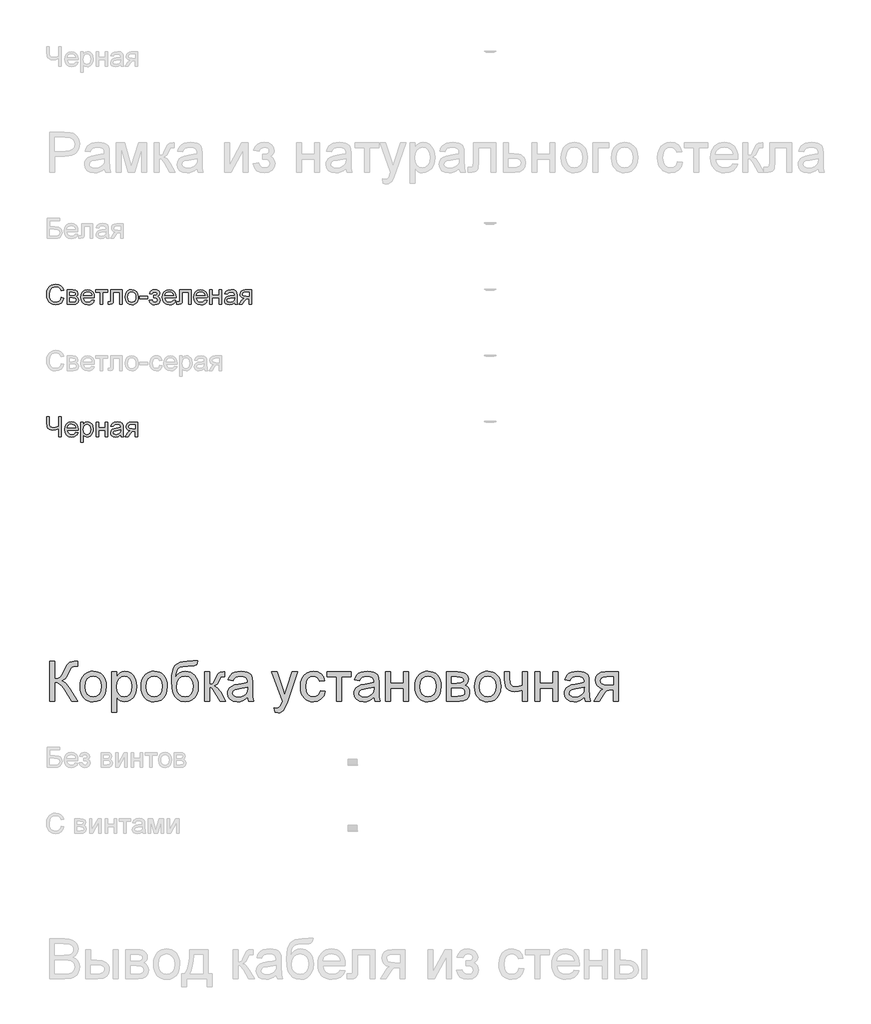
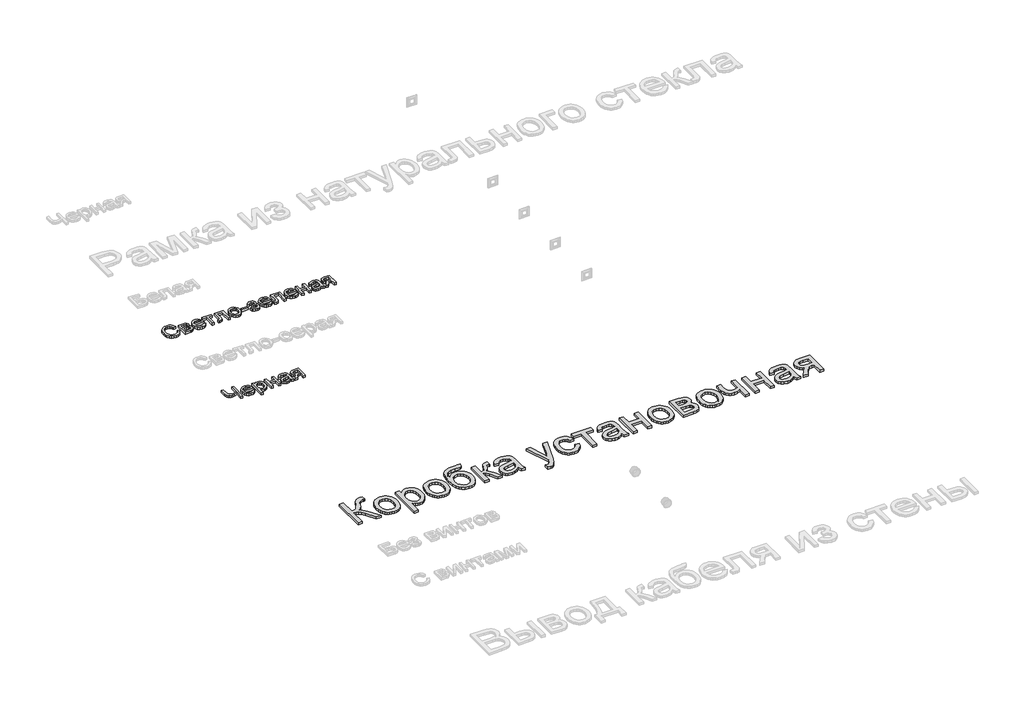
# One storey, part 101 of 168: 3 proxies.
"""IFC4 building model written with IfcOpenShell, lengths in millimetres."""

from ifc_helpers import new_model, si_unit, origin, origin_with_axes, place, context, project, spatial, polyline, outline, extrude, element, save

model = new_model("IFC4")

# Units and contexts
model_context = context("Model", 3, world=origin())
ifc_project = project(units=[si_unit("LENGTHUNIT", "METRE", prefix="MILLI")], contexts=[model_context])

# Site, building, storey
site = spatial("IfcSite", under=ifc_project)
building = spatial("IfcBuilding", under=site)
storey = spatial("IfcBuildingStorey", under=building, Name="Этаж 01", Elevation=0.0)

# Proxies
placement = place(None, origin())
element("IfcBuildingElementProxy", 1, Name="300 мм Arial 2", ObjectType="300 мм Arial 2", at=placement, inside=storey, context=model_context, shape_type="SweptSolid", body=[
    extrude(outline(polyline([(32899.0945017, -20047.0367511), (32936.765618, -20047.0367511), (32936.765618, -20178.8856582), (32962.2690373, -20176.3932577), (32978.8881064, -20168.9160561), (32992.3249963, -20151.3220997), (33008.2818778, -20118.4794346), (33029.0672106, -20076.3569461), (33039.0919949, -20064.9434072), (33052.6116582, -20055.498037), (33068.6605103, -20049.1520726), (33086.2728608, -20047.0367511), (33110.9945309, -20047.4782095), (33110.9945309, -20085.1493258), (33102.6803978, -20084.9285966), (33094.3662647, -20084.7078674), (33077.1125991, -20086.9703417), (33064.9357051, -20093.7577645), (33054.4510682, -20108.0131918), (33042.5684798, -20132.5325268), (33027.9911557, -20163.0667324), (33015.8970351, -20179.768575), (32989.8877781, -20195.3667716), (33004.4788977, -20201.5747802), (33018.9688498, -20212.399708), (33047.6452513, -20247.9003205), (33110.9945309, -20348.4056816), (33067.2901499, -20348.4056816), (33013.7265314, -20263.4985171), (32993.0423662, -20236.2660524), (32976.0186268, -20219.1687367), (32958.6086114, -20210.1464307), (32936.765618, -20207.1389954), (32936.765618, -20348.4056816), (32899.0945017, -20348.4056816), (32899.0945017, -20047.0367511)])), origin_with_axes(), (0.0, 0.0, 1.0), 20.0),
    extrude(outline(polyline([(33129.830089, -20237.7467774), (33131.8672356, -20209.0841715), (33137.9786752, -20184.385494), (33148.164408, -20163.6507451), (33162.4244338, -20146.8799246), (33176.7810287, -20136.160763), (33192.6275456, -20128.504219), (33209.9639846, -20123.9102925), (33228.7903457, -20122.3789837), (33249.5733792, -20124.2436856), (33268.3652514, -20129.8377912), (33285.1659622, -20139.1613005), (33299.9755118, -20152.2142135), (33312.0627346, -20168.5550719), (33320.6964652, -20187.7424172), (33325.8767035, -20209.7762495), (33327.6034496, -20234.6565687), (33324.5500291, -20272.7139611), (33315.3897674, -20301.6846682), (33300.389379, -20323.3805088), (33279.8155785, -20339.6133019), (33255.3790169, -20349.7392538), (33228.7903457, -20353.1145711), (33207.7038096, -20351.256767), (33188.7371935, -20345.6833548), (33171.8904974, -20336.3943344), (33157.1637213, -20323.3897059), (33145.2052572, -20306.8901984), (33136.6634971, -20287.1165412), (33131.538441, -20264.0687342), (33129.830089, -20237.7467774)]), holes=[polyline([(33167.5012053, -20237.673201), (33171.860607, -20271.7666649), (33184.9388119, -20296.0560737), (33204.6204987, -20310.5966095), (33228.7903457, -20315.4434548), (33252.8498282, -20310.5690184), (33272.4947268, -20295.9457091), (33285.5729317, -20271.3344036), (33289.9323333, -20236.4959786), (33285.5453405, -20203.3957961), (33272.3843622, -20179.4374812), (33252.7118725, -20164.8969453), (33228.7903457, -20160.0501), (33204.6204987, -20164.8785512), (33184.9388119, -20179.3639048), (33171.860607, -20203.5981312), (33167.5012053, -20237.673201)])]), origin_with_axes(), (0.0, 0.0, 1.0), 20.0),
    extrude(outline(polyline([(33369.9834555, -20433.1656933), (33369.9834555, -20127.0878733), (33407.6545718, -20127.0878733), (33407.6545718, -20164.0232256), (33419.9418304, -20145.8038698), (33433.700617, -20132.7900442), (33449.740272, -20124.9817488), (33468.8701358, -20122.3789837), (33494.345964, -20126.0210155), (33516.6212188, -20136.9471107), (33534.7578011, -20154.4950819), (33547.817612, -20178.0027414), (33555.7086807, -20205.7594379), (33558.339037, -20236.0545202), (33555.3683899, -20268.271786), (33546.4564486, -20297.0861432), (33531.8883216, -20321.0352611), (33511.9491174, -20338.6568087), (33488.7265665, -20349.5001305), (33464.308399, -20353.1145711), (33446.9903541, -20350.695747), (33431.5301133, -20343.4392746), (33418.2955585, -20332.4855882), (33407.6545718, -20318.975122), (33407.6545718, -20433.1656933), (33369.9834555, -20433.1656933)]), holes=[polyline([(33407.6545718, -20239.512611), (33411.7288649, -20273.2841782), (33423.9517442, -20296.9022022), (33441.987159, -20310.8081417), (33463.4990587, -20315.4434548), (33485.3604462, -20310.6425948), (33503.8557135, -20296.2400147), (33516.4648689, -20271.7574679), (33520.6679207, -20236.7167078), (33516.5660365, -20203.1290817), (33504.2603837, -20179.1799638), (33486.2525601, -20164.832566), (33465.044163, -20160.0501), (33443.7529926, -20165.1360686), (33425.0553902, -20180.3939744), (33412.0047764, -20205.3455707), (33407.6545718, -20239.512611)])]), origin_with_axes(), (0.0, 0.0, 1.0), 20.0),
    extrude(outline(polyline([(33591.3012638, -20237.7467774), (33593.3384103, -20209.0841715), (33599.44985, -20184.385494), (33609.6355827, -20163.6507451), (33623.8956086, -20146.8799246), (33638.2522034, -20136.160763), (33654.0987204, -20128.504219), (33671.4351594, -20123.9102925), (33690.2615205, -20122.3789837), (33711.044554, -20124.2436856), (33729.8364261, -20129.8377912), (33746.637137, -20139.1613005), (33761.4466866, -20152.2142135), (33773.5339094, -20168.5550719), (33782.1676399, -20187.7424172), (33787.3478783, -20209.7762495), (33789.0746244, -20234.6565687), (33786.0212038, -20272.7139611), (33776.8609421, -20301.6846682), (33761.8605538, -20323.3805088), (33741.2867532, -20339.6133019), (33716.8501917, -20349.7392538), (33690.2615205, -20353.1145711), (33669.1749844, -20351.256767), (33650.2083683, -20345.6833548), (33633.3616721, -20336.3943344), (33618.634896, -20323.3897059), (33606.6764319, -20306.8901984), (33598.1346718, -20287.1165412), (33593.0096158, -20264.0687342), (33591.3012638, -20237.7467774)]), holes=[polyline([(33628.9723801, -20237.673201), (33633.3317817, -20271.7666649), (33646.4099867, -20296.0560737), (33666.0916734, -20310.5966095), (33690.2615205, -20315.4434548), (33714.321003, -20310.5690184), (33733.9659015, -20295.9457091), (33747.0441064, -20271.3344036), (33751.4035081, -20236.4959786), (33747.0165153, -20203.3957961), (33733.8555369, -20179.4374812), (33714.1830472, -20164.8969453), (33690.2615205, -20160.0501), (33666.0916734, -20164.8785512), (33646.4099867, -20179.3639048), (33633.3317817, -20203.5981312), (33628.9723801, -20237.673201)])]), origin_with_axes(), (0.0, 0.0, 1.0), 20.0),
    extrude(outline(polyline([(33986.847985, -20042.3278616), (34019.8102118, -20042.3278616), (34016.2417564, -20060.2345177), (34010.0981271, -20071.721633), (34001.5816589, -20078.5182529), (33990.8946869, -20082.3534227), (33944.7622847, -20084.7078674), (33906.456572, -20086.8783712), (33882.6270158, -20093.3898825), (33868.3715884, -20104.6838598), (33858.7882625, -20121.2017613), (33853.1504709, -20143.072346), (33850.7316468, -20170.4243723), (33865.8791879, -20149.3815222), (33883.3627798, -20134.3719368), (33903.2008163, -20125.377222), (33925.4116918, -20122.3789837), (33945.9349086, -20124.2850723), (33964.6095184, -20130.0033381), (33981.4355211, -20139.533781), (33996.4129169, -20152.8764011), (34008.7093726, -20169.4701784), (34017.4925552, -20188.7540927), (34022.7624648, -20210.7281441), (34024.5191013, -20235.3923327), (34021.0334194, -20271.3527977), (34010.5763737, -20300.2131402), (33995.336862, -20322.6447449), (33977.5037823, -20339.3189963), (33954.9158278, -20349.6656774), (33925.4116918, -20353.1145711), (33891.4101984, -20348.672396), (33865.9251732, -20335.3458707), (33847.1723885, -20315.0939669), (33833.3676166, -20289.8756561), (33824.8695425, -20251.9010372), (33822.0368512, -20193.3802088), (33823.8233781, -20153.7156319), (33829.1829589, -20121.1005938), (33838.1155936, -20095.5350944), (33850.6212822, -20077.0191337), (33866.8333819, -20063.9018413), (33886.8852499, -20054.5323468), (33910.7768862, -20048.91065), (33938.5082908, -20047.0367511), (33980.4468383, -20046.1906225), (33986.847985, -20042.3278616)]), holes=[polyline([(33986.847985, -20234.2151103), (33982.7644949, -20204.5730185), (33970.5140244, -20180.8354328), (33950.8323377, -20165.2464332), (33924.4551986, -20160.0501), (33896.9560195, -20165.5407388), (33885.8689758, -20172.4040373), (33876.5569628, -20182.0126552), (33863.9202163, -20207.6632273), (33859.7079675, -20240.6898334), (33864.3616747, -20272.704764), (33878.3227964, -20296.2032265), (33899.1081291, -20310.6333977), (33924.2344694, -20315.4434548), (33949.4895684, -20309.8792396), (33969.4839548, -20293.1865941), (33982.5069775, -20267.3152928), (33986.847985, -20234.2151103)])]), origin_with_axes(), (0.0, 0.0, 1.0), 20.0),
    extrude(outline(polyline([(34071.6079967, -20127.0878733), (34109.279113, -20127.0878733), (34109.279113, -20221.265664), (34124.6013981, -20219.5734069), (34134.5158179, -20214.4966353), (34143.2898034, -20201.2528835), (34155.190786, -20175.0596854), (34172.3708752, -20141.0306009), (34187.5276134, -20129.9573528), (34215.0819748, -20127.0878733), (34222.2924619, -20127.0878733), (34222.2924619, -20164.9797188), (34212.1389188, -20164.7589896), (34193.7448191, -20168.7321151), (34180.7953729, -20193.5273616), (34165.6018465, -20220.345959), (34144.3014789, -20233.4793463), (34156.2392497, -20238.7814455), (34168.0666558, -20248.1394438), (34191.3903743, -20279.0231373), (34231.710241, -20348.4056816), (34188.8887767, -20348.4056816), (34149.3782505, -20280.4946653), (34129.5126227, -20251.7630814), (34120.2236023, -20246.5483542), (34109.279113, -20244.8101117), (34109.279113, -20348.4056816), (34071.6079967, -20348.4056816), (34071.6079967, -20127.0878733)])), origin_with_axes(), (0.0, 0.0, 1.0), 20.0),
    extrude(outline(polyline([(34396.5213748, -20320.1523443), (34378.5227482, -20335.584994), (34359.9906927, -20345.6833548), (34340.502144, -20351.256767), (34319.6340378, -20353.1145711), (34288.1525361, -20348.6448049), (34264.9299852, -20335.2355061), (34250.6101785, -20314.8732377), (34245.8369096, -20289.5445623), (34247.6395314, -20273.9279716), (34253.0473967, -20259.7461207), (34261.3891209, -20247.6060149), (34271.9933195, -20238.1146594), (34298.3704585, -20225.7538244), (34330.9648033, -20220.0884417), (34369.4820482, -20214.1287533), (34396.3006456, -20207.1389954), (34396.5213748, -20198.7512859), (34393.9278068, -20181.9390788), (34386.1471026, -20170.9394071), (34368.7462842, -20162.7724268), (34344.5028607, -20160.0501), (34322.062059, -20161.8619189), (34306.390286, -20167.2973753), (34295.703314, -20177.3497509), (34288.2169154, -20193.0123268), (34250.5457991, -20188.3034373), (34257.0849016, -20167.7020455), (34266.8429715, -20151.5152378), (34280.7305168, -20139.1360086), (34299.6580455, -20129.9573528), (34322.80702, -20124.273576), (34349.358903, -20122.3789837), (34374.8255342, -20124.0528468), (34395.0130586, -20129.074436), (34410.2341762, -20136.625214), (34420.8015865, -20145.8866432), (34427.8097385, -20157.3369703), (34432.3530812, -20171.4544419), (34434.1924911, -20204.4166687), (34434.1924911, -20251.2848348), (34436.1054775, -20316.7310418), (34443.6102702, -20348.4056816), (34405.9391539, -20348.4056816), (34396.5213748, -20320.1523443)]), holes=[polyline([(34396.5213748, -20244.8101117), (34335.7472692, -20256.3616064), (34303.3368654, -20262.4684475), (34288.6583738, -20272.4012614), (34283.5080259, -20286.895812), (34286.3131261, -20298.0978187), (34294.7284268, -20307.2764745), (34308.5699868, -20313.4017097), (34327.6538653, -20315.4434548), (34347.8873751, -20313.1901776), (34365.76644, -20306.4303459), (34380.2609906, -20296.4699409), (34390.3409573, -20284.6149436), (34394.8107235, -20272.4012614), (34396.3006456, -20255.4786896), (34396.5213748, -20244.8101117)])]), origin_with_axes(), (0.0, 0.0, 1.0), 20.0),
    extrude(outline(polyline([(34603.7125145, -20433.1656933), (34599.003625, -20396.8925285), (34618.1334887, -20400.2034665), (34636.0125537, -20396.0463999), (34646.9754371, -20384.4581171), (34657.276133, -20356.7198147), (34660.219189, -20347.5963412), (34580.1680668, -20127.0878733), (34619.8993223, -20127.0878733), (34662.3529045, -20249.9604597), (34677.1417607, -20299.1094942), (34691.930617, -20255.6994188), (34735.5614216, -20127.0878733), (34774.9983715, -20127.0878733), (34697.9638817, -20353.7031823), (34677.9511011, -20402.8522169), (34667.7055876, -20418.5423839), (34656.0989106, -20429.4132969), (34642.6160355, -20435.7592613), (34626.7419274, -20437.8745828), (34603.7125145, -20433.1656933)])), origin_with_axes(), (0.0, 0.0, 1.0), 20.0),
    extrude(outline(polyline([(34947.4614508, -20268.3545594), (34985.1325671, -20273.063449), (34974.6295361, -20306.5683017), (34954.8926671, -20331.88778), (34927.7797641, -20347.8078733), (34895.1486311, -20353.1145711), (34874.0207083, -20351.2636648), (34855.0770848, -20345.710946), (34838.3177606, -20336.4564145), (34823.7427358, -20323.5000705), (34811.9452201, -20307.0856357), (34803.5184231, -20287.456832), (34798.462345, -20264.6136594), (34796.7769856, -20238.5561178), (34799.6556622, -20205.032871), (34808.291692, -20175.9793904), (34822.8230308, -20152.5177162), (34843.3876344, -20135.7698884), (34867.9897428, -20125.7267099), (34894.6335963, -20122.3789837), (34926.4645859, -20126.9775087), (34951.9128229, -20140.7730835), (34970.168967, -20163.0299442), (34980.4236776, -20193.0123268), (34942.7525613, -20197.7212163), (34935.9191532, -20181.2860882), (34925.2781665, -20169.5046673), (34911.4182123, -20162.4137419), (34894.9279019, -20160.0501), (34870.5833109, -20164.7038073), (34851.2603091, -20178.664929), (34838.6511537, -20202.6876233), (34834.4481019, -20237.5260482), (34838.5591832, -20272.8335227), (34850.8924271, -20296.9389904), (34869.865941, -20310.8173387), (34893.8978323, -20315.4434548), (34913.4047751, -20312.5555811), (34929.3984448, -20303.8919602), (34941.0327129, -20289.2318626), (34947.4614508, -20268.3545594)])), origin_with_axes(), (0.0, 0.0, 1.0), 20.0),
    extrude(outline(polyline([(34999.2592357, -20127.0878733), (35178.1970382, -20127.0878733), (35178.1970382, -20164.7589896), (35107.5636951, -20164.7589896), (35107.5636951, -20348.4056816), (35069.8925788, -20348.4056816), (35069.8925788, -20164.7589896), (34999.2592357, -20164.7589896), (34999.2592357, -20127.0878733)])), origin_with_axes(), (0.0, 0.0, 1.0), 20.0),
    extrude(outline(polyline([(35352.4259511, -20320.1523443), (35334.4273245, -20335.584994), (35315.895269, -20345.6833548), (35296.4067203, -20351.256767), (35275.5386141, -20353.1145711), (35244.0571124, -20348.6448049), (35220.8345614, -20335.2355061), (35206.5147548, -20314.8732377), (35201.7414859, -20289.5445623), (35203.5441076, -20273.9279716), (35208.951973, -20259.7461207), (35217.2936972, -20247.6060149), (35227.8978957, -20238.1146594), (35254.2750348, -20225.7538244), (35286.8693796, -20220.0884417), (35325.3866244, -20214.1287533), (35352.2052219, -20207.1389954), (35352.4259511, -20198.7512859), (35349.832383, -20181.9390788), (35342.0516788, -20170.9394071), (35324.6508605, -20162.7724268), (35300.407437, -20160.0501), (35277.9666353, -20161.8619189), (35262.2948623, -20167.2973753), (35251.6078903, -20177.3497509), (35244.1214917, -20193.0123268), (35206.4503754, -20188.3034373), (35212.9894779, -20167.7020455), (35222.7475478, -20151.5152378), (35236.6350931, -20139.1360086), (35255.5626218, -20129.9573528), (35278.7115963, -20124.273576), (35305.2634793, -20122.3789837), (35330.7301104, -20124.0528468), (35350.9176349, -20129.074436), (35366.1387525, -20136.625214), (35376.7061628, -20145.8866432), (35383.7143148, -20157.3369703), (35388.2576574, -20171.4544419), (35390.0970674, -20204.4166687), (35390.0970674, -20251.2848348), (35392.0100538, -20316.7310418), (35399.5148465, -20348.4056816), (35361.8437302, -20348.4056816), (35352.4259511, -20320.1523443)]), holes=[polyline([(35352.4259511, -20244.8101117), (35291.6518455, -20256.3616064), (35259.2414417, -20262.4684475), (35244.5629501, -20272.4012614), (35239.4126022, -20286.895812), (35242.2177024, -20298.0978187), (35250.633003, -20307.2764745), (35264.4745631, -20313.4017097), (35283.5584416, -20315.4434548), (35303.7919513, -20313.1901776), (35321.6710163, -20306.4303459), (35336.1655669, -20296.4699409), (35346.2455336, -20284.6149436), (35350.7152998, -20272.4012614), (35352.2052219, -20255.4786896), (35352.4259511, -20244.8101117)])]), origin_with_axes(), (0.0, 0.0, 1.0), 20.0),
    extrude(outline(polyline([(35441.8948523, -20127.0878733), (35479.5659686, -20127.0878733), (35479.5659686, -20211.847885), (35578.4526489, -20211.847885), (35578.4526489, -20127.0878733), (35616.1237652, -20127.0878733), (35616.1237652, -20348.4056816), (35578.4526489, -20348.4056816), (35578.4526489, -20249.5190013), (35479.5659686, -20249.5190013), (35479.5659686, -20348.4056816), (35441.8948523, -20348.4056816), (35441.8948523, -20127.0878733)])), origin_with_axes(), (0.0, 0.0, 1.0), 20.0),
    extrude(outline(polyline([(35663.2126606, -20237.7467774), (35665.2498072, -20209.0841715), (35671.3612468, -20184.385494), (35681.5469796, -20163.6507451), (35695.8070054, -20146.8799246), (35710.1636003, -20136.160763), (35726.0101172, -20128.504219), (35743.3465562, -20123.9102925), (35762.1729173, -20122.3789837), (35782.9559508, -20124.2436856), (35801.747823, -20129.8377912), (35818.5485338, -20139.1613005), (35833.3580834, -20152.2142135), (35845.4453062, -20168.5550719), (35854.0790368, -20187.7424172), (35859.2592751, -20209.7762495), (35860.9860212, -20234.6565687), (35857.9326007, -20272.7139611), (35848.772339, -20301.6846682), (35833.7719506, -20323.3805088), (35813.1981501, -20339.6133019), (35788.7615885, -20349.7392538), (35762.1729173, -20353.1145711), (35741.0863812, -20351.256767), (35722.1197651, -20345.6833548), (35705.273069, -20336.3943344), (35690.5462929, -20323.3897059), (35678.5878288, -20306.8901984), (35670.0460687, -20287.1165412), (35664.9210126, -20264.0687342), (35663.2126606, -20237.7467774)]), holes=[polyline([(35700.8837769, -20237.673201), (35705.2431786, -20271.7666649), (35718.3213835, -20296.0560737), (35738.0030702, -20310.5966095), (35762.1729173, -20315.4434548), (35786.2323998, -20310.5690184), (35805.8772983, -20295.9457091), (35818.9555033, -20271.3344036), (35823.3149049, -20236.4959786), (35818.9279121, -20203.3957961), (35805.7669337, -20179.4374812), (35786.0944441, -20164.8969453), (35762.1729173, -20160.0501), (35738.0030702, -20164.8785512), (35718.3213835, -20179.3639048), (35705.2431786, -20203.5981312), (35700.8837769, -20237.673201)])]), origin_with_axes(), (0.0, 0.0, 1.0), 20.0),
    extrude(outline(polyline([(35903.3660271, -20127.0878733), (35986.3602052, -20127.0878733), (36013.0408469, -20128.3478691), (36031.867208, -20132.1278566), (36045.7179651, -20139.2647673), (36057.4717948, -20150.5955328), (36065.5008194, -20165.3567978), (36068.1771609, -20182.7852073), (36066.5584801, -20196.8291025), (36061.7024378, -20208.9416172), (36053.5906398, -20219.1779337), (36042.204692, -20227.5932344), (36056.1474197, -20235.4199238), (36067.5149733, -20248.0106851), (36075.0749483, -20264.3722368), (36077.59494, -20283.5112976), (36071.2121874, -20312.2244873), (36056.0370551, -20332.439603), (36032.0143608, -20344.4141619), (35999.0889222, -20348.4056816), (35903.3660271, -20348.4056816), (35903.3660271, -20127.0878733)]), holes=[polyline([(35941.0371434, -20211.847885), (35978.2668013, -20211.847885), (36008.9849479, -20209.9348986), (36023.9209569, -20202.2829531), (36028.8597727, -20195.9553828), (36030.5060446, -20188.4505901), (36027.6181709, -20177.2117951), (36018.95455, -20169.9829139), (36003.3011711, -20166.0649707), (35979.4440237, -20164.7589896), (35941.0371434, -20164.7589896), (35941.0371434, -20211.847885)]), polyline([(35941.0371434, -20310.7345653), (35987.243122, -20310.7345653), (36012.4246445, -20309.033111), (36028.2251762, -20303.9287484), (36036.7048562, -20294.648925), (36039.9238237, -20280.4210889), (36038.31434, -20270.9941127), (36033.4858888, -20262.2845065), (36026.0730666, -20255.4694925), (36016.7104698, -20251.7262932), (35983.564302, -20249.5190013), (35941.0371434, -20249.5190013), (35941.0371434, -20310.7345653)])]), origin_with_axes(), (0.0, 0.0, 1.0), 20.0),
    extrude(outline(polyline([(36115.2660563, -20237.7467774), (36117.3032028, -20209.0841715), (36123.4146425, -20184.385494), (36133.6003752, -20163.6507451), (36147.8604011, -20146.8799246), (36162.2169959, -20136.160763), (36178.0635129, -20128.504219), (36195.3999519, -20123.9102925), (36214.226313, -20122.3789837), (36235.0093465, -20124.2436856), (36253.8012186, -20129.8377912), (36270.6019295, -20139.1613005), (36285.4114791, -20152.2142135), (36297.4987019, -20168.5550719), (36306.1324324, -20187.7424172), (36311.3126708, -20209.7762495), (36313.0394169, -20234.6565687), (36309.9859963, -20272.7139611), (36300.8257347, -20301.6846682), (36285.8253463, -20323.3805088), (36265.2515457, -20339.6133019), (36240.8149842, -20349.7392538), (36214.226313, -20353.1145711), (36193.1397769, -20351.256767), (36174.1731608, -20345.6833548), (36157.3264647, -20336.3943344), (36142.5996885, -20323.3897059), (36130.6412244, -20306.8901984), (36122.0994644, -20287.1165412), (36116.9744083, -20264.0687342), (36115.2660563, -20237.7467774)]), holes=[polyline([(36152.9371726, -20237.673201), (36157.2965742, -20271.7666649), (36170.3747792, -20296.0560737), (36190.0564659, -20310.5966095), (36214.226313, -20315.4434548), (36238.2857955, -20310.5690184), (36257.930694, -20295.9457091), (36271.0088989, -20271.3344036), (36275.3683006, -20236.4959786), (36270.9813078, -20203.3957961), (36257.8203294, -20179.4374812), (36238.1478397, -20164.8969453), (36214.226313, -20160.0501), (36190.0564659, -20164.8785512), (36170.3747792, -20179.3639048), (36157.2965742, -20203.5981312), (36152.9371726, -20237.673201)])]), origin_with_axes(), (0.0, 0.0, 1.0), 20.0),
    extrude(outline(polyline([(36341.2927541, -20127.0878733), (36378.9638704, -20127.0878733), (36378.9638704, -20169.5414555), (36382.017291, -20209.3462874), (36387.2136242, -20220.9161761), (36396.6957826, -20230.9041723), (36409.7923816, -20237.8019597), (36425.8320366, -20240.1012222), (36448.8798436, -20237.2501367), (36477.8505507, -20228.6968803), (36477.8505507, -20127.0878733), (36515.521667, -20127.0878733), (36515.521667, -20348.4056816), (36477.8505507, -20348.4056816), (36477.8505507, -20264.8228923), (36445.6976644, -20274.5349769), (36415.75207, -20277.7723385), (36392.9709774, -20274.3970212), (36373.0409703, -20264.2710693), (36357.5071531, -20249.2522868), (36347.91463, -20231.1984779), (36342.9482231, -20210.6522685), (36341.2927541, -20188.1562845), (36341.2927541, -20127.0878733)])), origin_with_axes(), (0.0, 0.0, 1.0), 20.0),
    extrude(outline(polyline([(36572.0283415, -20127.0878733), (36609.6994578, -20127.0878733), (36609.6994578, -20211.847885), (36708.5861381, -20211.847885), (36708.5861381, -20127.0878733), (36746.2572544, -20127.0878733), (36746.2572544, -20348.4056816), (36708.5861381, -20348.4056816), (36708.5861381, -20249.5190013), (36609.6994578, -20249.5190013), (36609.6994578, -20348.4056816), (36572.0283415, -20348.4056816), (36572.0283415, -20127.0878733)])), origin_with_axes(), (0.0, 0.0, 1.0), 20.0),
    extrude(outline(polyline([(36944.030615, -20320.1523443), (36926.0319884, -20335.584994), (36907.4999329, -20345.6833548), (36888.0113842, -20351.256767), (36867.143278, -20353.1145711), (36835.6617763, -20348.6448049), (36812.4392254, -20335.2355061), (36798.1194187, -20314.8732377), (36793.3461498, -20289.5445623), (36795.1487716, -20273.9279716), (36800.5566369, -20259.7461207), (36808.8983611, -20247.6060149), (36819.5025597, -20238.1146594), (36845.8796987, -20225.7538244), (36878.4740435, -20220.0884417), (36916.9912884, -20214.1287533), (36943.8098858, -20207.1389954), (36944.030615, -20198.7512859), (36941.437047, -20181.9390788), (36933.6563428, -20170.9394071), (36916.2555244, -20162.7724268), (36892.0121009, -20160.0501), (36869.5712992, -20161.8619189), (36853.8995262, -20167.2973753), (36843.2125542, -20177.3497509), (36835.7261556, -20193.0123268), (36798.0550393, -20188.3034373), (36804.5941418, -20167.7020455), (36814.3522117, -20151.5152378), (36828.239757, -20139.1360086), (36847.1672857, -20129.9573528), (36870.3162602, -20124.273576), (36896.8681432, -20122.3789837), (36922.3347744, -20124.0528468), (36942.5222988, -20129.074436), (36957.7434164, -20136.625214), (36968.3108267, -20145.8866432), (36975.3189787, -20157.3369703), (36979.8623214, -20171.4544419), (36981.7017313, -20204.4166687), (36981.7017313, -20251.2848348), (36983.6147177, -20316.7310418), (36991.1195104, -20348.4056816), (36953.4483941, -20348.4056816), (36944.030615, -20320.1523443)]), holes=[polyline([(36944.030615, -20244.8101117), (36883.2565094, -20256.3616064), (36850.8461056, -20262.4684475), (36836.167614, -20272.4012614), (36831.0172661, -20286.895812), (36833.8223663, -20298.0978187), (36842.237667, -20307.2764745), (36856.079227, -20313.4017097), (36875.1631055, -20315.4434548), (36895.3966153, -20313.1901776), (36913.2756802, -20306.4303459), (36927.7702308, -20296.4699409), (36937.8501975, -20284.6149436), (36942.3199637, -20272.4012614), (36943.8098858, -20255.4786896), (36944.030615, -20244.8101117)])]), origin_with_axes(), (0.0, 0.0, 1.0), 20.0),
    extrude(outline(polyline([(37203.0195396, -20127.0878733), (37203.0195396, -20348.4056816), (37165.3484233, -20348.4056816), (37165.3484233, -20263.6456699), (37144.820608, -20263.6456699), (37116.8615764, -20268.4281358), (37105.6963578, -20278.8575904), (37090.5948019, -20300.5810222), (37060.5756311, -20348.4056816), (37017.0184029, -20348.4056816), (37054.836672, -20287.9258816), (37071.5385146, -20266.2208438), (37086.915982, -20256.5823356), (37061.1642423, -20248.6912668), (37043.0644481, -20233.7000755), (37032.3590821, -20213.7608713), (37028.7906267, -20191.025764), (37033.6650632, -20165.2372362), (37048.2883725, -20144.8197854), (37072.1455198, -20131.5208513), (37104.7214705, -20127.0878733), (37203.0195396, -20127.0878733)]), holes=[polyline([(37165.3484233, -20164.7589896), (37115.684354, -20164.7589896), (37090.0337819, -20166.9386904), (37075.4748519, -20173.4777929), (37068.7150202, -20182.9415572), (37066.461743, -20193.8952436), (37069.781878, -20208.2518385), (37079.742283, -20218.2122435), (37098.1455799, -20224.033976), (37126.7943902, -20225.9745536), (37165.3484233, -20225.9745536), (37165.3484233, -20164.7589896)])]), origin_with_axes(), (0.0, 0.0, 1.0), 20.0),
])
element("IfcBuildingElementProxy", 2, Name="150", ObjectType="150", at=placement, inside=storey, context=model_context, shape_type="SweptSolid", body=[
    extrude(outline(polyline([(32988.5634029, -17294.8420631), (33007.398961, -17299.6981054), (32998.7077489, -17321.6468649), (32985.0685239, -17337.6819214), (32967.1526708, -17347.4905751), (32945.631574, -17350.7601263), (32923.7839821, -17348.2861199), (32906.4337475, -17340.8641007), (32893.1348133, -17328.751586), (32883.4411228, -17312.2060932), (32877.5228212, -17292.7543327), (32875.550054, -17271.9230148), (32877.7803386, -17249.9512626), (32884.4711923, -17230.9777487), (32895.2731274, -17215.6048798), (32909.8366559, -17204.4350628), (32927.1087156, -17197.6338444), (32946.0362442, -17195.3667716), (32966.6882197, -17198.3006305), (32983.7625428, -17207.1022072), (32996.7257847, -17221.2288758), (33005.0445163, -17240.1380104), (32986.2089581, -17244.6261707), (32979.6790527, -17230.8903767), (32970.7579143, -17221.4679991), (32959.3351784, -17216.0187471), (32945.3004803, -17214.2023297), (32929.1228695, -17216.2164837), (32915.8331324, -17222.2589454), (32905.7485672, -17231.6951186), (32899.1864722, -17243.8904067), (32894.3856121, -17271.8862266), (32895.8065563, -17289.2870449), (32900.0693889, -17304.3334185), (32907.3350583, -17316.4505318), (32917.7645129, -17325.063569), (32930.2679022, -17330.2093184), (32943.7553759, -17331.9245682), (32959.4777326, -17329.5885175), (32972.5789302, -17322.5803655), (32982.4703573, -17310.9736886), (32988.5634029, -17294.8420631)])), origin_with_axes(), (0.0, 0.0, 1.0), 20.0),
    extrude(outline(polyline([(33030.9434087, -17237.7467774), (33072.4404978, -17237.7467774), (33095.1939992, -17240.2667691), (33107.9962926, -17249.5006072), (33113.3489756, -17265.5954445), (33110.1116141, -17278.6736494), (33100.3627412, -17287.999458), (33113.0178819, -17298.2081833), (33118.0578652, -17315.9584896), (33114.8664889, -17330.3150845), (33107.2789227, -17340.4226423), (33095.2675756, -17346.4099217), (33078.8048563, -17348.4056816), (33030.9434087, -17348.4056816), (33030.9434087, -17237.7467774)]), holes=[polyline([(33049.7789669, -17280.1267833), (33068.3937958, -17280.1267833), (33083.7528691, -17279.1702901), (33091.2208736, -17275.3443173), (33094.5134175, -17268.4281358), (33093.0694807, -17262.8087383), (33088.7376702, -17259.1942977), (33068.982407, -17256.5823356), (33049.7789669, -17256.5823356), (33049.7789669, -17280.1267833)]), polyline([(33049.7789669, -17329.5701234), (33072.8819562, -17329.5701234), (33093.3729833, -17326.167215), (33097.6128233, -17321.5273033), (33099.222307, -17314.4133852), (33096.0033396, -17305.345094), (33087.6156301, -17300.0659874), (33071.0425462, -17298.9623414), (33049.7789669, -17298.9623414), (33049.7789669, -17329.5701234)])]), origin_with_axes(), (0.0, 0.0, 1.0), 20.0),
    extrude(outline(polyline([(33219.0782611, -17315.4434548), (33237.5459372, -17317.7978996), (33230.8918716, -17331.713036), (33220.2738775, -17342.1148995), (33205.9310783, -17348.5988196), (33188.1025971, -17350.7601263), (33166.0020862, -17347.0307226), (33148.996741, -17335.8425114), (33138.1534192, -17317.9220597), (33134.5389786, -17293.9959345), (33138.1902074, -17269.2650674), (33149.1438938, -17250.7698), (33165.9193128, -17239.2366995), (33187.0357393, -17235.3923327), (33207.4945767, -17239.2275025), (33223.8423329, -17250.7330118), (33234.5614945, -17269.191491), (33238.1345484, -17293.8855699), (33238.0241838, -17298.9623414), (33153.3745367, -17298.9623414), (33156.6348909, -17313.0614189), (33164.2086615, -17323.4264941), (33175.1393553, -17329.8000497), (33188.4704791, -17331.9245682), (33206.9381552, -17327.9882308), (33219.0782611, -17315.4434548)]), holes=[polyline([(33153.3745367, -17280.1267833), (33219.2989903, -17280.1267833), (33216.7514074, -17270.1755753), (33211.7574094, -17263.0570587), (33200.7761318, -17256.4351828), (33186.9621629, -17254.2278908), (33174.2656355, -17255.9891259), (33163.7672031, -17261.272831), (33156.469344, -17269.5087892), (33153.3745367, -17280.1267833)])]), origin_with_axes(), (0.0, 0.0, 1.0), 20.0),
    extrude(outline(polyline([(33247.5523275, -17237.7467774), (33337.0212287, -17237.7467774), (33337.0212287, -17256.5823356), (33301.7045572, -17256.5823356), (33301.7045572, -17348.4056816), (33282.868999, -17348.4056816), (33282.868999, -17256.5823356), (33247.5523275, -17256.5823356), (33247.5523275, -17237.7467774)])), origin_with_axes(), (0.0, 0.0, 1.0), 20.0),
    extrude(outline(polyline([(33362.9201212, -17237.7467774), (33447.6801329, -17237.7467774), (33447.6801329, -17348.295317), (33428.8445747, -17348.295317), (33428.8445747, -17256.5823356), (33381.7556793, -17256.5823356), (33381.7556793, -17309.3734019), (33380.4864864, -17333.72719), (33373.5151226, -17344.0094917), (33357.0340093, -17348.4056816), (33341.7301183, -17347.4491884), (33341.7301183, -17329.5701234), (33350.1546159, -17329.5701234), (33358.6710841, -17328.4112951), (33362.0739926, -17324.7324752), (33362.9201212, -17308.3065441), (33362.9201212, -17237.7467774)])), origin_with_axes(), (0.0, 0.0, 1.0), 20.0),
    extrude(outline(polyline([(33471.2245806, -17293.0762295), (33475.2988737, -17266.3955878), (33487.5217529, -17247.6428031), (33502.6233088, -17238.4549503), (33520.7047089, -17235.3923327), (33540.4921617, -17239.1217364), (33556.2972919, -17250.3099476), (33566.6577686, -17268.0740494), (33570.1112609, -17291.5311251), (33568.5845506, -17310.5598213), (33564.0044197, -17325.0451749), (33556.5042256, -17335.8930952), (33546.2173253, -17344.0094917), (33533.9990445, -17349.0724677), (33520.7047089, -17350.7601263), (33500.6781328, -17347.0445182), (33484.8913967, -17335.8976937), (33474.6412846, -17317.7611114), (33471.2245806, -17293.0762295)]), holes=[polyline([(33490.0601387, -17293.0394413), (33492.2398395, -17310.0861732), (33498.778942, -17322.2308776), (33508.6197854, -17329.5011455), (33520.7047089, -17331.9245682), (33532.7344502, -17329.48735), (33542.5568994, -17322.1756953), (33549.0960019, -17309.8700426), (33551.2757027, -17292.4508301), (33549.0822063, -17275.9007388), (33542.5017171, -17263.9215814), (33532.6654723, -17256.6513134), (33520.7047089, -17254.2278908), (33508.6197854, -17256.6421164), (33498.778942, -17263.8847932), (33492.2398395, -17276.0019064), (33490.0601387, -17293.0394413)])]), origin_with_axes(), (0.0, 0.0, 1.0), 20.0),
    extrude(outline(polyline([(33581.8834847, -17303.671231), (33581.8834847, -17284.8356728), (33640.7446039, -17284.8356728), (33640.7446039, -17303.671231), (33581.8834847, -17303.671231)])), origin_with_axes(), (0.0, 0.0, 1.0), 20.0),
    extrude(outline(polyline([(33687.8334993, -17298.9623414), (33687.8334993, -17280.1267833), (33702.6959319, -17279.3910193), (33710.2007246, -17275.473076), (33713.7323918, -17267.2877016), (33709.0051081, -17257.7779521), (33696.80982, -17254.2278908), (33684.2098617, -17257.759558), (33676.0612755, -17268.3545594), (33654.8712725, -17266.0001146), (33660.49067, -17252.60921), (33669.0347294, -17243.0442782), (33680.5034506, -17237.305319), (33694.8968336, -17235.3923327), (33710.642183, -17237.7237848), (33722.5615597, -17244.7181412), (33730.0663524, -17254.9498592), (33732.5679499, -17266.993396), (33729.0086916, -17278.6920435), (33718.3309167, -17287.7419406), (33730.7837223, -17299.4773762), (33734.9223947, -17316.3631598), (33732.296637, -17330.2277125), (33724.4193637, -17341.2135886), (33711.8240039, -17348.3734919), (33695.0439864, -17350.7601263), (33678.6318509, -17348.5528344), (33666.0732793, -17341.9309585), (33657.3682716, -17330.8944986), (33652.5168278, -17315.4434548), (33673.7068307, -17313.08901), (33682.2049048, -17326.9949494), (33696.8466082, -17331.9245682), (33710.6053948, -17327.1972845), (33716.0868365, -17315.112361), (33712.6839281, -17305.2163353), (33705.4366528, -17299.9188346), (33691.5123193, -17298.8519768), (33687.8334993, -17298.9623414)])), origin_with_axes(), (0.0, 0.0, 1.0), 20.0),
    extrude(outline(polyline([(33835.9427906, -17315.4434548), (33854.4104667, -17317.7978996), (33847.7564011, -17331.713036), (33837.1384071, -17342.1148995), (33822.7956078, -17348.5988196), (33804.9671266, -17350.7601263), (33782.8666157, -17347.0307226), (33765.8612705, -17335.8425114), (33755.0179487, -17317.9220597), (33751.4035081, -17293.9959345), (33755.0547369, -17269.2650674), (33766.0084233, -17250.7698), (33782.7838423, -17239.2366995), (33803.9002688, -17235.3923327), (33824.3591063, -17239.2275025), (33840.7068624, -17250.7330118), (33851.426024, -17269.191491), (33854.9990779, -17293.8855699), (33854.8887133, -17298.9623414), (33770.2390662, -17298.9623414), (33773.4994204, -17313.0614189), (33781.073191, -17323.4264941), (33792.0038848, -17329.8000497), (33805.3350086, -17331.9245682), (33823.8026847, -17327.9882308), (33835.9427906, -17315.4434548)]), holes=[polyline([(33770.2390662, -17280.1267833), (33836.1635198, -17280.1267833), (33833.615937, -17270.1755753), (33828.6219389, -17263.0570587), (33817.6406613, -17256.4351828), (33803.8266924, -17254.2278908), (33791.130165, -17255.9891259), (33780.6317326, -17261.272831), (33773.3338735, -17269.5087892), (33770.2390662, -17280.1267833)])]), origin_with_axes(), (0.0, 0.0, 1.0), 20.0),
    extrude(outline(polyline([(33883.2524152, -17237.7467774), (33968.0124268, -17237.7467774), (33968.0124268, -17348.295317), (33949.1768687, -17348.295317), (33949.1768687, -17256.5823356), (33902.0879733, -17256.5823356), (33902.0879733, -17309.3734019), (33900.8187804, -17333.72719), (33893.8474166, -17344.0094917), (33877.3663032, -17348.4056816), (33862.0624122, -17347.4491884), (33862.0624122, -17329.5701234), (33870.4869099, -17329.5701234), (33879.0033781, -17328.4112951), (33882.4062866, -17324.7324752), (33883.2524152, -17308.3065441), (33883.2524152, -17237.7467774)])), origin_with_axes(), (0.0, 0.0, 1.0), 20.0),
    extrude(outline(polyline([(34073.7417123, -17315.4434548), (34092.2093884, -17317.7978996), (34085.5553228, -17331.713036), (34074.9373287, -17342.1148995), (34060.5945295, -17348.5988196), (34042.7660483, -17350.7601263), (34020.6655374, -17347.0307226), (34003.6601922, -17335.8425114), (33992.8168704, -17317.9220597), (33989.2024298, -17293.9959345), (33992.8536586, -17269.2650674), (34003.807345, -17250.7698), (34020.582764, -17239.2366995), (34041.6991905, -17235.3923327), (34062.1580279, -17239.2275025), (34078.5057841, -17250.7330118), (34089.2249457, -17269.191491), (34092.7979996, -17293.8855699), (34092.687635, -17298.9623414), (34008.0379879, -17298.9623414), (34011.2983421, -17313.0614189), (34018.8721127, -17323.4264941), (34029.8028065, -17329.8000497), (34043.1339303, -17331.9245682), (34061.6016064, -17327.9882308), (34073.7417123, -17315.4434548)]), holes=[polyline([(34008.0379879, -17280.1267833), (34073.9624415, -17280.1267833), (34071.4148586, -17270.1755753), (34066.4208606, -17263.0570587), (34055.439583, -17256.4351828), (34041.6256141, -17254.2278908), (34028.9290867, -17255.9891259), (34018.4306543, -17261.272831), (34011.1327952, -17269.5087892), (34008.0379879, -17280.1267833)])]), origin_with_axes(), (0.0, 0.0, 1.0), 20.0),
    extrude(outline(polyline([(34111.6335578, -17237.7467774), (34130.4691159, -17237.7467774), (34130.4691159, -17280.1267833), (34179.9124561, -17280.1267833), (34179.9124561, -17237.7467774), (34198.7480142, -17237.7467774), (34198.7480142, -17348.4056816), (34179.9124561, -17348.4056816), (34179.9124561, -17298.9623414), (34130.4691159, -17298.9623414), (34130.4691159, -17348.4056816), (34111.6335578, -17348.4056816), (34111.6335578, -17237.7467774)])), origin_with_axes(), (0.0, 0.0, 1.0), 20.0),
    extrude(outline(polyline([(34297.6346945, -17334.279013), (34279.3693535, -17347.0445182), (34259.191026, -17350.7601263), (34243.4502752, -17348.5252432), (34231.8389997, -17341.8205939), (34224.6790964, -17331.6394596), (34222.2924619, -17318.975122), (34225.8977055, -17304.0759012), (34235.3706668, -17293.2601705), (34248.5592364, -17287.079753), (34264.8564088, -17284.2470616), (34297.5243299, -17277.7723385), (34297.6346945, -17273.5784838), (34296.3379105, -17265.1723802), (34292.4475584, -17259.6725443), (34283.7471492, -17255.5890542), (34271.6254375, -17254.2278908), (34252.5691501, -17257.8515285), (34243.4824648, -17270.7090042), (34224.6469067, -17268.3545594), (34232.7954929, -17249.9604597), (34249.2030299, -17239.1815172), (34274.0534586, -17235.3923327), (34296.8805364, -17238.7400588), (34309.7748004, -17247.1461624), (34315.5505477, -17259.9300617), (34316.4702527, -17276.4111751), (34316.4702527, -17299.8452582), (34317.4267459, -17332.5683617), (34321.1791422, -17348.4056816), (34302.3435841, -17348.4056816), (34297.6346945, -17334.279013)]), holes=[polyline([(34297.6346945, -17296.6078966), (34267.2476417, -17302.383644), (34251.0424398, -17305.4370645), (34243.703194, -17310.4034715), (34241.1280201, -17317.6507468), (34246.7382205, -17327.841078), (34263.2009398, -17331.9245682), (34282.2572271, -17327.4180137), (34294.5444858, -17316.5103126), (34297.5243299, -17301.9421856), (34297.6346945, -17296.6078966)])]), origin_with_axes(), (0.0, 0.0, 1.0), 20.0),
    extrude(outline(polyline([(34427.1291568, -17237.7467774), (34427.1291568, -17348.4056816), (34408.2935987, -17348.4056816), (34408.2935987, -17306.0256757), (34398.029691, -17306.0256757), (34384.0501752, -17308.4169087), (34370.916788, -17324.4933519), (34355.9072026, -17348.4056816), (34334.1285884, -17348.4056816), (34353.037723, -17318.1657816), (34361.3886443, -17307.3132627), (34369.077378, -17302.4940086), (34356.2015082, -17298.5484742), (34347.1516111, -17291.0528785), (34341.798928, -17281.0832765), (34340.0147004, -17269.7157228), (34342.4519186, -17256.8214589), (34349.7635732, -17246.6127335), (34361.6921469, -17239.9632664), (34377.9801223, -17237.7467774), (34427.1291568, -17237.7467774)]), holes=[polyline([(34408.2935987, -17256.5823356), (34383.461564, -17256.5823356), (34370.6362779, -17257.672186), (34363.356813, -17260.9417372), (34358.8502585, -17271.1504626), (34360.510326, -17278.32876), (34365.4905285, -17283.3089625), (34389.0165821, -17287.1901176), (34408.2935987, -17287.1901176), (34408.2935987, -17256.5823356)])]), origin_with_axes(), (0.0, 0.0, 1.0), 20.0),
])
element("IfcBuildingElementProxy", 3, Name="150", ObjectType="150", at=placement, inside=storey, context=model_context, shape_type="SweptSolid", body=[
    extrude(outline(polyline([(32988.5634029, -18348.4056816), (32969.7278447, -18348.4056816), (32969.7278447, -18288.0730344), (32944.7486573, -18296.2400147), (32923.0804077, -18298.9623414), (32908.3973176, -18297.0999388), (32895.5444404, -18291.512731), (32885.5840354, -18283.0606422), (32879.5783618, -18272.6035965), (32875.550054, -18242.6028198), (32875.550054, -18197.7212163), (32894.3856121, -18197.7212163), (32894.3856121, -18240.064434), (32896.6480864, -18260.4313009), (32903.4355092, -18272.3828673), (32913.3959142, -18278.1908043), (32925.1773351, -18280.1267833), (32946.909964, -18277.7907326), (32969.7278447, -18270.7825806), (32969.7278447, -18197.7212163), (32988.5634029, -18197.7212163), (32988.5634029, -18348.4056816)])), origin_with_axes(), (0.0, 0.0, 1.0), 20.0),
    extrude(outline(polyline([(33096.6471331, -18315.4434548), (33115.1148092, -18317.7978996), (33108.4607436, -18331.713036), (33097.8427496, -18342.1148995), (33083.4999503, -18348.5988196), (33065.6714691, -18350.7601263), (33043.5709582, -18347.0307226), (33026.565613, -18335.8425114), (33015.7222912, -18317.9220597), (33012.1078506, -18293.9959345), (33015.7590794, -18269.2650674), (33026.7127658, -18250.7698), (33043.4881848, -18239.2366995), (33064.6046113, -18235.3923327), (33085.0634487, -18239.2275025), (33101.4112049, -18250.7330118), (33112.1303665, -18269.191491), (33115.7034204, -18293.8855699), (33115.5930558, -18298.9623414), (33030.9434087, -18298.9623414), (33034.2037629, -18313.0614189), (33041.7775335, -18323.4264941), (33052.7082273, -18329.8000497), (33066.0393511, -18331.9245682), (33084.5070272, -18327.9882308), (33096.6471331, -18315.4434548)]), holes=[polyline([(33030.9434087, -18280.1267833), (33096.8678623, -18280.1267833), (33094.3202794, -18270.1755753), (33089.3262814, -18263.0570587), (33078.3450038, -18256.4351828), (33064.5310349, -18254.2278908), (33051.8345075, -18255.9891259), (33041.3360751, -18261.272831), (33034.038216, -18269.5087892), (33030.9434087, -18280.1267833)])]), origin_with_axes(), (0.0, 0.0, 1.0), 20.0),
    extrude(outline(polyline([(33134.5389786, -18390.7856874), (33134.5389786, -18237.7467774), (33153.3745367, -18237.7467774), (33153.3745367, -18256.2144536), (33166.3975594, -18240.5978629), (33183.9823187, -18235.3923327), (33196.7202328, -18237.2133485), (33207.8578602, -18242.6763962), (33216.9261514, -18251.4503817), (33223.4560568, -18263.2042115), (33228.7167693, -18292.2301009), (33227.2314458, -18308.3387338), (33222.7754751, -18322.7459124), (33215.4914116, -18334.7204713), (33205.5218095, -18343.5312451), (33193.9105341, -18348.952906), (33181.7014504, -18350.7601263), (33165.3123075, -18345.9224781), (33153.3745367, -18333.6904018), (33153.3745367, -18390.7856874), (33134.5389786, -18390.7856874)]), holes=[polyline([(33153.3745367, -18293.9591463), (33155.4116833, -18310.8449299), (33161.5231229, -18322.6539419), (33170.5408303, -18329.6069116), (33181.2967802, -18331.9245682), (33192.2274739, -18329.5241382), (33201.4751076, -18322.3228481), (33207.7796853, -18310.0815747), (33209.8812112, -18292.5611947), (33207.8302691, -18275.7673816), (33201.6774427, -18263.7928227), (33192.6735309, -18256.6191238), (33182.0693323, -18254.2278908), (33171.4237471, -18256.7708751), (33162.0749459, -18264.399828), (33155.549639, -18276.8756261), (33153.3745367, -18293.9591463)])]), origin_with_axes(), (0.0, 0.0, 1.0), 20.0),
    extrude(outline(polyline([(33249.9067723, -18237.7467774), (33268.7423304, -18237.7467774), (33268.7423304, -18280.1267833), (33318.1856706, -18280.1267833), (33318.1856706, -18237.7467774), (33337.0212287, -18237.7467774), (33337.0212287, -18348.4056816), (33318.1856706, -18348.4056816), (33318.1856706, -18298.9623414), (33268.7423304, -18298.9623414), (33268.7423304, -18348.4056816), (33249.9067723, -18348.4056816), (33249.9067723, -18237.7467774)])), origin_with_axes(), (0.0, 0.0, 1.0), 20.0),
    extrude(outline(polyline([(33435.907909, -18334.279013), (33417.642568, -18347.0445182), (33397.4642405, -18350.7601263), (33381.7234897, -18348.5252432), (33370.1122142, -18341.8205939), (33362.9523109, -18331.6394596), (33360.5656764, -18318.975122), (33364.17092, -18304.0759012), (33373.6438813, -18293.2601705), (33386.8324509, -18287.079753), (33403.1296232, -18284.2470616), (33435.7975444, -18277.7723385), (33435.907909, -18273.5784838), (33434.611125, -18265.1723802), (33430.7207729, -18259.6725443), (33422.0203637, -18255.5890542), (33409.898652, -18254.2278908), (33390.8423646, -18257.8515285), (33381.7556793, -18270.7090042), (33362.9201212, -18268.3545594), (33371.0687074, -18249.9604597), (33387.4762444, -18239.1815172), (33412.3266731, -18235.3923327), (33435.1537509, -18238.7400588), (33448.0480149, -18247.1461624), (33453.8237622, -18259.9300617), (33454.7434672, -18276.4111751), (33454.7434672, -18299.8452582), (33455.6999604, -18332.5683617), (33459.4523567, -18348.4056816), (33440.6167986, -18348.4056816), (33435.907909, -18334.279013)]), holes=[polyline([(33435.907909, -18296.6078966), (33405.5208562, -18302.383644), (33389.3156543, -18305.4370645), (33381.9764085, -18310.4034715), (33379.4012346, -18317.6507468), (33385.011435, -18327.841078), (33401.4741543, -18331.9245682), (33420.5304416, -18327.4180137), (33432.8177003, -18316.5103126), (33435.7975444, -18301.9421856), (33435.907909, -18296.6078966)])]), origin_with_axes(), (0.0, 0.0, 1.0), 20.0),
    extrude(outline(polyline([(33565.4023713, -18237.7467774), (33565.4023713, -18348.4056816), (33546.5668132, -18348.4056816), (33546.5668132, -18306.0256757), (33536.3029055, -18306.0256757), (33522.3233897, -18308.4169087), (33509.1900025, -18324.4933519), (33494.1804171, -18348.4056816), (33472.4018029, -18348.4056816), (33491.3109375, -18318.1657816), (33499.6618588, -18307.3132627), (33507.3505925, -18302.4940086), (33494.4747227, -18298.5484742), (33485.4248256, -18291.0528785), (33480.0721425, -18281.0832765), (33478.2879149, -18269.7157228), (33480.7251331, -18256.8214589), (33488.0367877, -18246.6127335), (33499.9653614, -18239.9632664), (33516.2533368, -18237.7467774), (33565.4023713, -18237.7467774)]), holes=[polyline([(33546.5668132, -18256.5823356), (33521.7347785, -18256.5823356), (33508.9094924, -18257.672186), (33501.6300275, -18260.9417372), (33497.123473, -18271.1504626), (33498.7835405, -18278.32876), (33503.763743, -18283.3089625), (33527.2897966, -18287.1901176), (33546.5668132, -18287.1901176), (33546.5668132, -18256.5823356)])]), origin_with_axes(), (0.0, 0.0, 1.0), 20.0),
])

save(model, "model.ifc")
